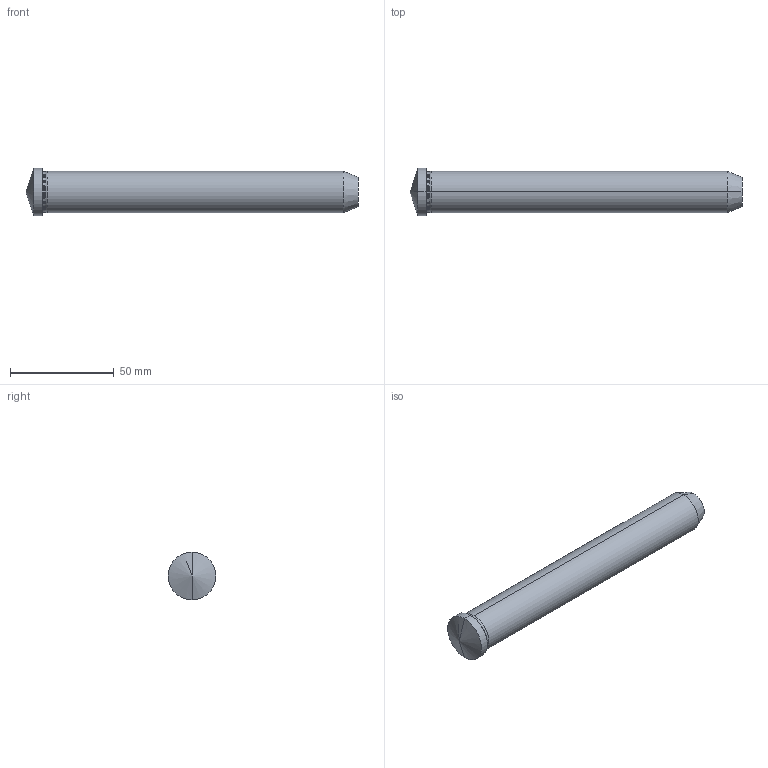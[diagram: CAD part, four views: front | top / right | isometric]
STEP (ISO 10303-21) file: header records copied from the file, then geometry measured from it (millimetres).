
FILE_DESCRIPTION (( 'STEP AP214' ), '1' );
FILE_NAME ('BR1032_20x160.STEP', '2020-01-27T12:40:18', ( 'August' ), ( '' ), 'SwSTEP 2.0', 'SolidWorks 2018', '' );
FILE_SCHEMA (( 'AUTOMOTIVE_DESIGN' ));
Length unit declared in the file: millimetre
Products named in the file (1): BR1032_20x160
Bounding box: 160 x 23 x 23 mm (x, y, z)
Volume: 49423.5 mm3; surface area: 10519.9 mm2
Topology: 1 solids, 1 shells, 18 faces, 36 edges, 19 vertices
Faces by surface type: cone 6, cylinder 6, torus 4, plane 2
Entity records: 486 total; most frequent: DIRECTION 94, CARTESIAN_POINT 72, ORIENTED_EDGE 68, AXIS2_PLACEMENT_3D 41, EDGE_CURVE 34, CIRCLE 22, EDGE_LOOP 19, VERTEX_POINT 19
